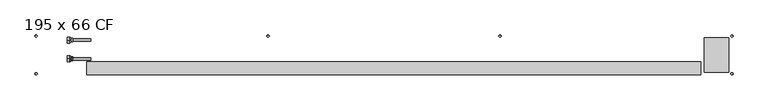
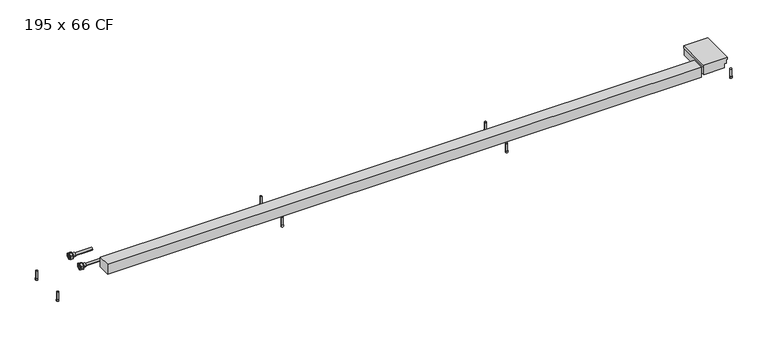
"""IFC4 building model written with IfcOpenShell, lengths in millimetres: proxy geometry, Mohlenhof_Внутрипольный конвектор_QSKM CF : 195 x 66 CF."""

from ifc_helpers import new_model, si_unit, point, frame, frame_2d, origin, place, context, project, spatial, polyline, circle_curve, trimmed, segment, composite_curve, outline, extrude, source, transform, mapped, element, save
from ifc_brep_helpers import plane_surface, cylinder_surface, revolved_surface, advanced_brep


def proxy_195_x_66_cf_cbb57332(model_context):
    return source(origin(), model_context, "Body", "SolidModel", [
        extrude(outline(composite_curve([segment(trimmed(circle_curve(frame_2d((-466.6666667, -273.5)), 4.5), [point((-471.1666667, -273.5))], [point((-462.1666667, -273.5))], False, "CARTESIAN"), True, "CONTINUOUS"), segment(trimmed(circle_curve(frame_2d((-466.6666667, -273.5)), 4.5), [point((-462.1666667, -273.5))], [point((-471.1666667, -273.5))], False, "CARTESIAN"), True, "CONTINUOUS")], self_intersect=False)), frame((0.0, 0.0, -110.0), z_axis=(0.0, 0.0, 1.0), x_axis=(1.0, 0.0, 0.0)), (0.0, 0.0, 1.0), 7.0),
        extrude(outline(composite_curve([segment(trimmed(circle_curve(frame_2d((-466.6666667, -273.5)), 4.0), [point((-470.6666667, -273.5))], [point((-462.6666667, -273.5))], False, "CARTESIAN"), True, "CONTINUOUS"), segment(trimmed(circle_curve(frame_2d((-466.6666667, -273.5)), 4.0), [point((-462.6666667, -273.5))], [point((-470.6666667, -273.5))], False, "CARTESIAN"), True, "CONTINUOUS")], self_intersect=False)), frame((0.0, 0.0, -103.0), z_axis=(0.0, 0.0, 1.0), x_axis=(1.0, 0.0, 0.0)), (0.0, 0.0, 1.0), 32.5),
        extrude(outline(composite_curve([segment(trimmed(circle_curve(frame_2d((466.6666667, -273.5)), 4.5), [point((462.1666667, -273.5))], [point((471.1666667, -273.5))], False, "CARTESIAN"), True, "CONTINUOUS"), segment(trimmed(circle_curve(frame_2d((466.6666667, -273.5)), 4.5), [point((471.1666667, -273.5))], [point((462.1666667, -273.5))], False, "CARTESIAN"), True, "CONTINUOUS")], self_intersect=False)), frame((0.0, 0.0, -110.0), z_axis=(0.0, 0.0, 1.0), x_axis=(1.0, 0.0, 0.0)), (0.0, 0.0, 1.0), 7.0),
        extrude(outline(composite_curve([segment(trimmed(circle_curve(frame_2d((466.6666667, -273.5)), 4.0), [point((462.6666667, -273.5))], [point((470.6666667, -273.5))], False, "CARTESIAN"), True, "CONTINUOUS"), segment(trimmed(circle_curve(frame_2d((466.6666667, -273.5)), 4.0), [point((470.6666667, -273.5))], [point((462.6666667, -273.5))], False, "CARTESIAN"), True, "CONTINUOUS")], self_intersect=False)), frame((0.0, 0.0, -103.0), z_axis=(0.0, 0.0, 1.0), x_axis=(1.0, 0.0, 0.0)), (0.0, 0.0, 1.0), 32.5),
        extrude(outline(composite_curve([segment(trimmed(circle_curve(frame_2d((-466.6666667, -121.5)), 4.5), [point((-471.1666667, -121.5))], [point((-462.1666667, -121.5))], False, "CARTESIAN"), True, "CONTINUOUS"), segment(trimmed(circle_curve(frame_2d((-466.6666667, -121.5)), 4.5), [point((-462.1666667, -121.5))], [point((-471.1666667, -121.5))], False, "CARTESIAN"), True, "CONTINUOUS")], self_intersect=False)), frame((0.0, 0.0, -110.0), z_axis=(0.0, 0.0, 1.0), x_axis=(1.0, 0.0, 0.0)), (0.0, 0.0, 1.0), 7.0),
        extrude(outline(composite_curve([segment(trimmed(circle_curve(frame_2d((-466.6666667, -121.5)), 4.0), [point((-470.6666667, -121.5))], [point((-462.6666667, -121.5))], False, "CARTESIAN"), True, "CONTINUOUS"), segment(trimmed(circle_curve(frame_2d((-466.6666667, -121.5)), 4.0), [point((-462.6666667, -121.5))], [point((-470.6666667, -121.5))], False, "CARTESIAN"), True, "CONTINUOUS")], self_intersect=False)), frame((0.0, 0.0, -103.0), z_axis=(0.0, 0.0, 1.0), x_axis=(1.0, 0.0, 0.0)), (0.0, 0.0, 1.0), 32.5),
        extrude(outline(composite_curve([segment(trimmed(circle_curve(frame_2d((466.6666667, -121.5)), 4.5), [point((462.1666667, -121.5))], [point((471.1666667, -121.5))], False, "CARTESIAN"), True, "CONTINUOUS"), segment(trimmed(circle_curve(frame_2d((466.6666667, -121.5)), 4.5), [point((471.1666667, -121.5))], [point((462.1666667, -121.5))], False, "CARTESIAN"), True, "CONTINUOUS")], self_intersect=False)), frame((0.0, 0.0, -110.0), z_axis=(0.0, 0.0, 1.0), x_axis=(1.0, 0.0, 0.0)), (0.0, 0.0, 1.0), 7.0),
        extrude(outline(composite_curve([segment(trimmed(circle_curve(frame_2d((466.6666667, -121.5)), 4.0), [point((462.6666667, -121.5))], [point((470.6666667, -121.5))], False, "CARTESIAN"), True, "CONTINUOUS"), segment(trimmed(circle_curve(frame_2d((466.6666667, -121.5)), 4.0), [point((470.6666667, -121.5))], [point((462.6666667, -121.5))], False, "CARTESIAN"), True, "CONTINUOUS")], self_intersect=False)), frame((0.0, 0.0, -103.0), z_axis=(0.0, 0.0, 1.0), x_axis=(1.0, 0.0, 0.0)), (0.0, 0.0, 1.0), 32.5),
        advanced_brep(
        [(-1264.0, -213.0, -41.0), (-1264.0, -201.0, -41.0), (-1264.0, -225.0, -41.0), (-1251.5, -220.5, -41.0), (-1251.5, -205.5, -41.0), (-1251.5, -213.0, -41.0), (-1259.0, -220.5, -41.0), (-1259.0, -205.5, -41.0)],
        [
            (0, 1),
            (1, 2, circle_curve(frame((-1264.0, -213.0, -41.0), z_axis=(-1.0, 0.0, 0.0), x_axis=(0.0, 1.0, 0.0)), 12.0)),
            (2, 0),
            (2, 1, circle_curve(frame((-1264.0, -213.0, -41.0), z_axis=(-1.0, 0.0, 0.0), x_axis=(0.0, 1.0, 0.0)), 12.0)),
            (3, 4, circle_curve(frame((-1251.5, -213.0, -41.0), z_axis=(1.0, 0.0, 0.0), x_axis=(0.0, 1.0, 0.0)), 7.5)),
            (4, 5),
            (5, 3),
            (4, 3, circle_curve(frame((-1251.5, -213.0, -41.0), z_axis=(1.0, 0.0, 0.0), x_axis=(0.0, 1.0, 0.0)), 7.5)),
            (6, 7, circle_curve(frame((-1259.0, -213.0, -41.0), z_axis=(1.0, 0.0, 0.0), x_axis=(0.0, 1.0, 0.0)), 7.5)),
            (7, 4),
            (3, 6),
            (7, 6, circle_curve(frame((-1259.0, -213.0, -41.0), z_axis=(1.0, 0.0, 0.0), x_axis=(0.0, 1.0, 0.0)), 7.5)),
            (1, 7),
            (6, 2),
        ],
        [
            plane_surface(frame((-1264.0, -213.0, -41.0), z_axis=(-1.0, 0.0, 0.0), x_axis=(0.0, 1.0, 0.0))),
            plane_surface(frame((-1251.5, -213.0, -41.0), z_axis=(1.0, 0.0, 0.0), x_axis=(0.0, 1.0, 0.0))),
            cylinder_surface(frame((-1264.0, -213.0, -41.0), z_axis=(-1.0, 0.0, 0.0), x_axis=(0.0, 1.0, 0.0)), 7.5),
            revolved_surface(polyline([(-1259.0, -205.5, -41.0), (-1264.0, -201.0, -41.0)]), (-1264.0, -213.0, -41.0), (-1.0, 0.0, 0.0)),
        ],
        [
            (0, [[1, 2, 3]]),
            (0, [[-3, 4, -1]]),
            (1, [[5, 6, 7]]),
            (1, [[8, -7, -6]]),
            (2, [[9, 10, -5, 11]]),
            (2, [[12, -11, -8, -10]]),
            (3, [[-2, 13, -9, 14]]),
            (3, [[-4, -14, -12, -13]]),
        ],
    ),
        extrude(outline(polyline([(-213.0, -27.1435935), (-201.0, -34.0717968), (-201.0, -47.9282032), (-213.0, -54.8564065), (-225.0, -47.9282032), (-225.0, -34.0717968), (-213.0, -27.1435935)]), holes=[composite_curve([segment(trimmed(circle_curve(frame_2d((-213.0, -41.0)), 8.5), [point((-204.5, -41.0))], [point((-221.5, -41.0))], True, "CARTESIAN"), True, "CONTINUOUS"), segment(trimmed(circle_curve(frame_2d((-213.0, -41.0)), 8.5), [point((-221.5, -41.0))], [point((-204.5, -41.0))], True, "CARTESIAN"), True, "CONTINUOUS")], self_intersect=False)]), frame((-1275.0, 0.0, 0.0), z_axis=(1.0, 0.0, 0.0), x_axis=(0.0, 1.0, 0.0)), (0.0, 0.0, 1.0), 11.0),
        advanced_brep(
        [(-1264.0, -138.0, -41.0), (-1264.0, -126.0, -41.0), (-1264.0, -150.0, -41.0), (-1251.5, -145.5, -41.0), (-1251.5, -130.5, -41.0), (-1251.5, -138.0, -41.0), (-1259.0, -145.5, -41.0), (-1259.0, -130.5, -41.0)],
        [
            (0, 1),
            (1, 2, circle_curve(frame((-1264.0, -138.0, -41.0), z_axis=(-1.0, 0.0, 0.0), x_axis=(0.0, 1.0, 0.0)), 12.0)),
            (2, 0),
            (2, 1, circle_curve(frame((-1264.0, -138.0, -41.0), z_axis=(-1.0, 0.0, 0.0), x_axis=(0.0, 1.0, 0.0)), 12.0)),
            (3, 4, circle_curve(frame((-1251.5, -138.0, -41.0), z_axis=(1.0, 0.0, 0.0), x_axis=(0.0, 1.0, 0.0)), 7.5)),
            (4, 5),
            (5, 3),
            (4, 3, circle_curve(frame((-1251.5, -138.0, -41.0), z_axis=(1.0, 0.0, 0.0), x_axis=(0.0, 1.0, 0.0)), 7.5)),
            (6, 7, circle_curve(frame((-1259.0, -138.0, -41.0), z_axis=(1.0, 0.0, 0.0), x_axis=(0.0, 1.0, 0.0)), 7.5)),
            (7, 4),
            (3, 6),
            (7, 6, circle_curve(frame((-1259.0, -138.0, -41.0), z_axis=(1.0, 0.0, 0.0), x_axis=(0.0, 1.0, 0.0)), 7.5)),
            (1, 7),
            (6, 2),
        ],
        [
            plane_surface(frame((-1264.0, -138.0, -41.0), z_axis=(-1.0, 0.0, 0.0), x_axis=(0.0, 1.0, 0.0))),
            plane_surface(frame((-1251.5, -138.0, -41.0), z_axis=(1.0, 0.0, 0.0), x_axis=(0.0, 1.0, 0.0))),
            cylinder_surface(frame((-1264.0, -138.0, -41.0), z_axis=(-1.0, 0.0, 0.0), x_axis=(0.0, 1.0, 0.0)), 7.5),
            revolved_surface(polyline([(-1259.0, -130.5, -41.0), (-1264.0, -126.0, -41.0)]), (-1264.0, -138.0, -41.0), (-1.0, 0.0, 0.0)),
        ],
        [
            (0, [[1, 2, 3]]),
            (0, [[-3, 4, -1]]),
            (1, [[5, 6, 7]]),
            (1, [[8, -7, -6]]),
            (2, [[9, 10, -5, 11]]),
            (2, [[12, -11, -8, -10]]),
            (3, [[-2, 13, -9, 14]]),
            (3, [[-4, -14, -12, -13]]),
        ],
    ),
        extrude(outline(polyline([(-138.0, -27.1435935), (-126.0, -34.0717968), (-126.0, -47.9282032), (-138.0, -54.8564065), (-150.0, -47.9282032), (-150.0, -34.0717968), (-138.0, -27.1435935)]), holes=[composite_curve([segment(trimmed(circle_curve(frame_2d((-138.0, -41.0)), 8.5), [point((-129.5, -41.0))], [point((-146.5, -41.0))], True, "CARTESIAN"), True, "CONTINUOUS"), segment(trimmed(circle_curve(frame_2d((-138.0, -41.0)), 8.5), [point((-146.5, -41.0))], [point((-129.5, -41.0))], True, "CARTESIAN"), True, "CONTINUOUS")], self_intersect=False)]), frame((-1275.0, 0.0, 0.0), z_axis=(1.0, 0.0, 0.0), x_axis=(0.0, 1.0, 0.0)), (0.0, 0.0, 1.0), 11.0),
        extrude(outline(composite_curve([segment(trimmed(circle_curve(frame_2d((-1400.0, -273.5)), 4.5), [point((-1404.5, -273.5))], [point((-1395.5, -273.5))], False, "CARTESIAN"), True, "CONTINUOUS"), segment(trimmed(circle_curve(frame_2d((-1400.0, -273.5)), 4.5), [point((-1395.5, -273.5))], [point((-1404.5, -273.5))], False, "CARTESIAN"), True, "CONTINUOUS")], self_intersect=False)), frame((0.0, 0.0, -110.0), z_axis=(0.0, 0.0, 1.0), x_axis=(1.0, 0.0, 0.0)), (0.0, 0.0, 1.0), 7.0),
        extrude(outline(composite_curve([segment(trimmed(circle_curve(frame_2d((-1400.0, -273.5)), 4.0), [point((-1404.0, -273.5))], [point((-1396.0, -273.5))], False, "CARTESIAN"), True, "CONTINUOUS"), segment(trimmed(circle_curve(frame_2d((-1400.0, -273.5)), 4.0), [point((-1396.0, -273.5))], [point((-1404.0, -273.5))], False, "CARTESIAN"), True, "CONTINUOUS")], self_intersect=False)), frame((0.0, 0.0, -103.0), z_axis=(0.0, 0.0, 1.0), x_axis=(1.0, 0.0, 0.0)), (0.0, 0.0, 1.0), 32.5),
        extrude(outline(composite_curve([segment(trimmed(circle_curve(frame_2d((-1400.0, -121.5)), 4.5), [point((-1404.5, -121.5))], [point((-1395.5, -121.5))], False, "CARTESIAN"), True, "CONTINUOUS"), segment(trimmed(circle_curve(frame_2d((-1400.0, -121.5)), 4.5), [point((-1395.5, -121.5))], [point((-1404.5, -121.5))], False, "CARTESIAN"), True, "CONTINUOUS")], self_intersect=False)), frame((0.0, 0.0, -110.0), z_axis=(0.0, 0.0, 1.0), x_axis=(1.0, 0.0, 0.0)), (0.0, 0.0, 1.0), 7.0),
        extrude(outline(composite_curve([segment(trimmed(circle_curve(frame_2d((-1400.0, -121.5)), 4.0), [point((-1404.0, -121.5))], [point((-1396.0, -121.5))], False, "CARTESIAN"), True, "CONTINUOUS"), segment(trimmed(circle_curve(frame_2d((-1400.0, -121.5)), 4.0), [point((-1396.0, -121.5))], [point((-1404.0, -121.5))], False, "CARTESIAN"), True, "CONTINUOUS")], self_intersect=False)), frame((0.0, 0.0, -103.0), z_axis=(0.0, 0.0, 1.0), x_axis=(1.0, 0.0, 0.0)), (0.0, 0.0, 1.0), 32.5),
        extrude(outline(composite_curve([segment(trimmed(circle_curve(frame_2d((1400.0, -273.5)), 4.5), [point((1395.5, -273.5))], [point((1404.5, -273.5))], False, "CARTESIAN"), True, "CONTINUOUS"), segment(trimmed(circle_curve(frame_2d((1400.0, -273.5)), 4.5), [point((1404.5, -273.5))], [point((1395.5, -273.5))], False, "CARTESIAN"), True, "CONTINUOUS")], self_intersect=False)), frame((0.0, 0.0, -110.0), z_axis=(0.0, 0.0, 1.0), x_axis=(1.0, 0.0, 0.0)), (0.0, 0.0, 1.0), 7.0),
        extrude(outline(composite_curve([segment(trimmed(circle_curve(frame_2d((1400.0, -273.5)), 4.0), [point((1396.0, -273.5))], [point((1404.0, -273.5))], False, "CARTESIAN"), True, "CONTINUOUS"), segment(trimmed(circle_curve(frame_2d((1400.0, -273.5)), 4.0), [point((1404.0, -273.5))], [point((1396.0, -273.5))], False, "CARTESIAN"), True, "CONTINUOUS")], self_intersect=False)), frame((0.0, 0.0, -103.0), z_axis=(0.0, 0.0, 1.0), x_axis=(1.0, 0.0, 0.0)), (0.0, 0.0, 1.0), 32.5),
        extrude(outline(composite_curve([segment(trimmed(circle_curve(frame_2d((1400.0, -121.5)), 4.5), [point((1395.5, -121.5))], [point((1404.5, -121.5))], False, "CARTESIAN"), True, "CONTINUOUS"), segment(trimmed(circle_curve(frame_2d((1400.0, -121.5)), 4.5), [point((1404.5, -121.5))], [point((1395.5, -121.5))], False, "CARTESIAN"), True, "CONTINUOUS")], self_intersect=False)), frame((0.0, 0.0, -110.0), z_axis=(0.0, 0.0, 1.0), x_axis=(1.0, 0.0, 0.0)), (0.0, 0.0, 1.0), 7.0),
        extrude(outline(composite_curve([segment(trimmed(circle_curve(frame_2d((1400.0, -121.5)), 4.0), [point((1396.0, -121.5))], [point((1404.0, -121.5))], False, "CARTESIAN"), True, "CONTINUOUS"), segment(trimmed(circle_curve(frame_2d((1400.0, -121.5)), 4.0), [point((1404.0, -121.5))], [point((1396.0, -121.5))], False, "CARTESIAN"), True, "CONTINUOUS")], self_intersect=False)), frame((0.0, 0.0, -103.0), z_axis=(0.0, 0.0, 1.0), x_axis=(1.0, 0.0, 0.0)), (0.0, 0.0, 1.0), 32.5),
        extrude(outline(polyline([(-62.5, 1376.0), (-44.5, 1376.0), (-44.5, 1385.0), (-29.5, 1385.0), (-29.5, 1388.0), (-19.5, 1388.0), (-19.5, 1288.0), (-29.5, 1288.0), (-29.5, 1291.0), (-62.5, 1291.0), (-62.5, 1376.0)])), frame((0.0, -267.5, 0.0), z_axis=(0.0, 1.0, 0.0), x_axis=(0.0, 0.0, 1.0)), (0.0, 0.0, 1.0), 140.0),
        extrude(outline(polyline([(1275.0, -225.87), (1275.0, -277.18), (-1195.0, -277.18), (-1195.0, -225.87), (1275.0, -225.87)])), frame((0.0, 0.0, -62.5), z_axis=(0.0, 0.0, 1.0), x_axis=(1.0, 0.0, 0.0)), (0.0, 0.0, 1.0), 43.62),
        extrude(outline(composite_curve([segment(trimmed(circle_curve(frame_2d((-213.0, -41.0)), 5.0), [point((-218.0, -41.0))], [point((-208.0, -41.0))], False, "CARTESIAN"), True, "CONTINUOUS"), segment(trimmed(circle_curve(frame_2d((-213.0, -41.0)), 5.0), [point((-208.0, -41.0))], [point((-218.0, -41.0))], False, "CARTESIAN"), True, "CONTINUOUS")], self_intersect=False)), frame((-1275.0, 0.0, 0.0), z_axis=(1.0, 0.0, 0.0), x_axis=(0.0, 1.0, 0.0)), (0.0, 0.0, 1.0), 95.0),
        extrude(outline(composite_curve([segment(trimmed(circle_curve(frame_2d((-138.0, -41.0)), 5.0), [point((-143.0, -41.0))], [point((-133.0, -41.0))], False, "CARTESIAN"), True, "CONTINUOUS"), segment(trimmed(circle_curve(frame_2d((-138.0, -41.0)), 5.0), [point((-133.0, -41.0))], [point((-143.0, -41.0))], False, "CARTESIAN"), True, "CONTINUOUS")], self_intersect=False)), frame((-1275.0, 0.0, 0.0), z_axis=(1.0, 0.0, 0.0), x_axis=(0.0, 1.0, 0.0)), (0.0, 0.0, 1.0), 95.0),
    ])


if __name__ == "__main__":
    model = new_model("IFC4")
    model_context = context("Model", 3, world=origin())
    ifc_project = project(units=[si_unit("LENGTHUNIT", "METRE", prefix="MILLI")], contexts=[model_context])
    site = spatial("IfcSite", under=ifc_project)
    building = spatial("IfcBuilding", under=site)
    placement = place(None, origin())
    proxy_195_x_66_cf_shape = proxy_195_x_66_cf_cbb57332(model_context)
    element("IfcBuildingElementProxy", 1, Name="Mohlenhof_Внутрипольный конвектор_QSKM CF : 195 x 66 CF", ObjectType="Mohlenhof_Внутрипольный конвектор_QSKM CF : 195 x 66 CF", at=placement, inside=building, context=model_context, shape_type="MappedRepresentation", body=[
        mapped(proxy_195_x_66_cf_shape, transform((0.0, 0.0, 0.0), x_axis=(1.0, 0.0, 0.0), y_axis=(0.0, 1.0, 0.0), z_axis=(0.0, 0.0, 1.0))),
    ])
    save(model, "model.ifc")
